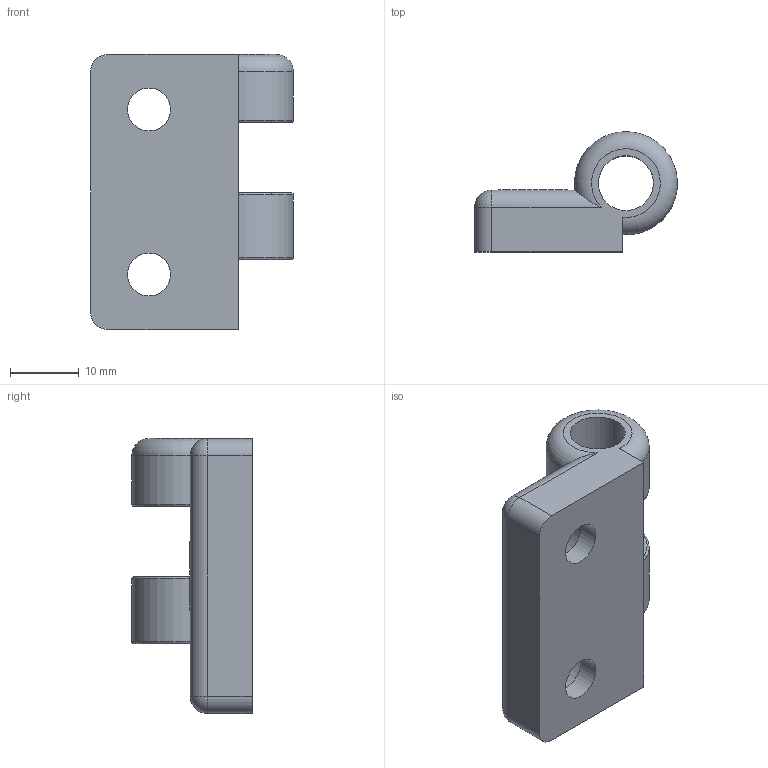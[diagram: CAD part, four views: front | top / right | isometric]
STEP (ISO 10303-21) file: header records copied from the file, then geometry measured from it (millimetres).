
FILE_DESCRIPTION (( 'STEP AP214' ), '1' );
FILE_NAME ('L19179.step', '2024-12-03T16:23:38', ( '' ), ( '' ), 'SwSTEP 2.0', 'SolidWorks 2023', '' );
FILE_SCHEMA (( 'AUTOMOTIVE_DESIGN' ));
Length unit declared in the file: millimetre
Products named in the file (1): L19179
Bounding box: 29.49 x 17.5 x 40 mm (x, y, z)
Volume: 7053 mm3; surface area: 4630.5 mm2
Topology: 2 solids, 2 shells, 46 faces, 113 edges, 72 vertices
Faces by surface type: cylinder 20, plane 18, torus 6, sphere 2
Full cylindrical faces by diameter (mm): 2 x2, 6.25 x2, 8 x2, 10 x1
Entity records: 1428 total; most frequent: CARTESIAN_POINT 320, DIRECTION 228, ORIENTED_EDGE 206, EDGE_CURVE 103, AXIS2_PLACEMENT_3D 91, VERTEX_POINT 71, EDGE_LOOP 64, FACE_OUTER_BOUND 53
